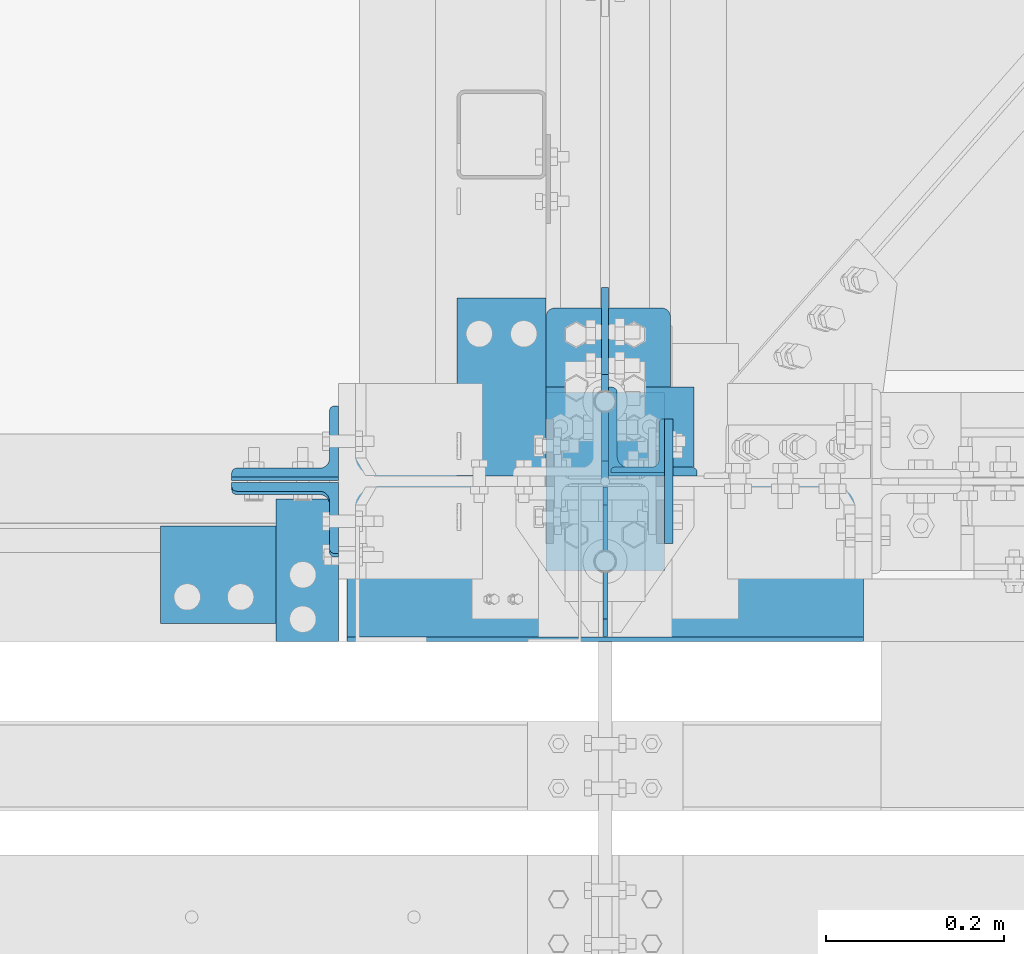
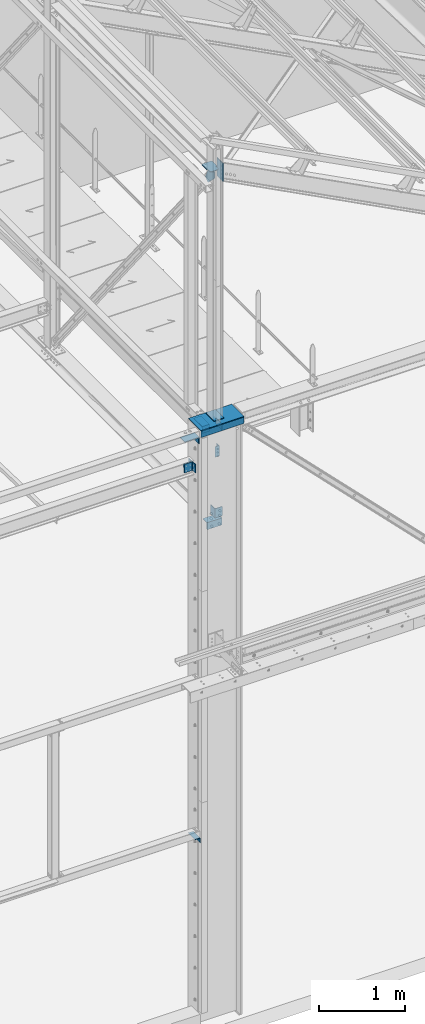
# One storey, part 68 of 362: 13 beams, 2 members, 11 elements without a shape of their own.
"""IFC2X3 building model written with IfcOpenShell, lengths in millimetres."""

import ifcopenshell
import ifcopenshell.guid

model = None  # the IFC model being written
_history = None  # IfcOwnerHistory: only IFC2X3 demands one
_inside = {}  # id of a spatial element -> (the spatial element, [elements in it])
_under = {}  # id of a project, library or spatial element -> (it, [spatial elements below it])
_declared = {}  # id of a project -> (the project, [libraries it declares])
_typed = {}  # id of a type object -> (the type object, [elements of that type])
_made_of = {}  # id of a material, layer set ... -> (it, [elements and type objects made of it])


def new_model(schema):
    """Start an empty IFC model of exactly this schema.

    Asked for "IFC4X3", IfcOpenShell would pick the latest addendum, in which some entities
    have other attributes; the version numbers below select the first issue.
    IFC2X3 requires an IfcOwnerHistory on every rooted entity: one is made here for all.
    """
    global model, _history
    if schema == "IFC4X3":
        model = ifcopenshell.file(schema_version=(4, 3, 0, 0))
    else:
        model = ifcopenshell.file(schema=schema)
    _inside.clear()
    _under.clear()
    _declared.clear()
    _typed.clear()
    _made_of.clear()
    _history = None
    if model.schema == "IFC2X3":
        org = make("IfcOrganization", Name="unknown")
        user = make(
            "IfcPersonAndOrganization",
            ThePerson=make("IfcPerson", FamilyName="unknown"),
            TheOrganization=org,
        )
        app = make(
            "IfcApplication",
            ApplicationDeveloper=org,
            Version="unknown",
            ApplicationFullName="unknown",
            ApplicationIdentifier="unknown",
        )
        _history = make(
            "IfcOwnerHistory",
            OwningUser=user,
            OwningApplication=app,
            ChangeAction="ADDED",
            CreationDate=0,
        )
    return model


def make(cls, **values):
    """One entity of the class cls with the attributes given. An attribute that is None is left unset."""
    return model.create_entity(
        cls, **{name: value for name, value in values.items() if value is not None}
    )


def rooted(cls, **values):
    """An entity with a GlobalId (a new one), such as an element, a storey or a relation."""
    return make(cls, GlobalId=ifcopenshell.guid.new(), OwnerHistory=_history, **values)


def si_unit(unit_type, name, prefix=None):
    """IfcSIUnit, for example si_unit("LENGTHUNIT", "METRE", prefix="MILLI")."""
    return make("IfcSIUnit", UnitType=unit_type, Prefix=prefix, Name=name)


def assignment(units):
    """IfcUnitAssignment: the units of a project."""
    return None if units is None else make("IfcUnitAssignment", Units=units)


def point(xyz):
    """IfcCartesianPoint."""
    return None if xyz is None else make("IfcCartesianPoint", Coordinates=xyz)


def direction(xyz):
    """IfcDirection."""
    return None if xyz is None else make("IfcDirection", DirectionRatios=xyz)


def frame(location, z_axis=None, x_axis=None):
    """IfcAxis2Placement3D, a coordinate frame: its origin and axes. An axis left out is left unset."""
    return make(
        "IfcAxis2Placement3D",
        Location=point(location),
        Axis=direction(z_axis),
        RefDirection=direction(x_axis),
    )


def frame_2d(location, x_axis=None):
    """IfcAxis2Placement2D, a coordinate frame in the plane: its origin and x axis."""
    return make(
        "IfcAxis2Placement2D", Location=point(location), RefDirection=direction(x_axis)
    )


def origin_with_axes():
    """The frame at (0, 0, 0) with the z axis (0, 0, 1) and the x axis (1, 0, 0) written out."""
    return frame((0.0, 0.0, 0.0), z_axis=(0.0, 0.0, 1.0), x_axis=(1.0, 0.0, 0.0))


def origin_2d_with_axis():
    """The frame at (0, 0) in the plane with the x axis (1, 0) written out."""
    return frame_2d((0.0, 0.0), x_axis=(1.0, 0.0))


def place(relative_to, where):
    """IfcLocalPlacement: puts the frame where relative to a parent placement (None: the world)."""
    return make(
        "IfcLocalPlacement", PlacementRelTo=relative_to, RelativePlacement=where
    )


def context(
    kind, dimensions, precision=None, world=None, true_north=None, identifier=None
):
    """IfcGeometricRepresentationContext, for example the 3D "Model" context."""
    return make(
        "IfcGeometricRepresentationContext",
        ContextIdentifier=identifier,
        ContextType=kind,
        CoordinateSpaceDimension=dimensions,
        Precision=precision,
        WorldCoordinateSystem=world,
        TrueNorth=true_north,
    )


def subcontext(parent, identifier, kind, view, scale=None):
    """IfcGeometricRepresentationSubContext, for example "Body" below "Model"."""
    return make(
        "IfcGeometricRepresentationSubContext",
        ContextIdentifier=identifier,
        ContextType=kind,
        ParentContext=parent,
        TargetScale=scale,
        TargetView=view,
    )


def project(units=None, contexts=None):
    """IfcProject with its units and contexts."""
    return rooted(
        "IfcProject",
        Name="project",
        RepresentationContexts=contexts,
        UnitsInContext=assignment(units),
    )


def spatial(cls, under=None, at=None, **own):
    """A site, building, storey or space (cls), placed at a placement, below another one or the project."""
    s = rooted(cls, ObjectPlacement=at, **own)
    if under is not None:
        _under.setdefault(under.id(), (under, []))[1].append(s)
    return s


def polyline(points):
    """IfcPolyline through the points."""
    return make("IfcPolyline", Points=[point(p) for p in points])


def circle_curve(where, radius):
    """IfcCircle in the frame where."""
    return make("IfcCircle", Position=where, Radius=radius)


def parameter(value):
    """IfcParameterValue: where a trimmed curve begins or ends, as a parameter of its basis curve."""
    return model.create_entity("IfcParameterValue", value)


def trimmed(basis, trim1, trim2, sense, master):
    """IfcTrimmedCurve: the piece of a basis curve between two trims."""
    return make(
        "IfcTrimmedCurve",
        BasisCurve=basis,
        Trim1=trim1,
        Trim2=trim2,
        SenseAgreement=sense,
        MasterRepresentation=master,
    )


def segment(curve, same_sense, transition):
    """IfcCompositeCurveSegment."""
    return make(
        "IfcCompositeCurveSegment",
        Transition=transition,
        SameSense=same_sense,
        ParentCurve=curve,
    )


def composite_curve(segments, self_intersect=None):
    """IfcCompositeCurve: segments joined end to end."""
    return make("IfcCompositeCurve", Segments=segments, SelfIntersect=self_intersect)


def profile(cls, at=None, kind="AREA", **sizes):
    """A parametric profile (cls). Its sizes go by their IFC names, for example OverallWidth=200.0."""
    return make(cls, ProfileType=kind, Position=at, **sizes)


def rectangle(**sizes):
    """IfcRectangleProfileDef."""
    return profile("IfcRectangleProfileDef", **sizes)


def l_section(**sizes):
    """IfcLShapeProfileDef."""
    return profile("IfcLShapeProfileDef", **sizes)


def outline(outer, holes=None, kind="AREA"):
    """IfcArbitraryClosedProfileDef: a profile drawn as a closed curve; with holes, ...WithVoids."""
    if holes is None:
        return make("IfcArbitraryClosedProfileDef", ProfileType=kind, OuterCurve=outer)
    return make(
        "IfcArbitraryProfileDefWithVoids",
        ProfileType=kind,
        OuterCurve=outer,
        InnerCurves=holes,
    )


def extrude(swept, where, along, depth):
    """IfcExtrudedAreaSolid: the profile swept, set in the frame where, extruded along a direction by depth."""
    return make(
        "IfcExtrudedAreaSolid",
        SweptArea=swept,
        Position=where,
        ExtrudedDirection=direction(along),
        Depth=depth,
    )


def shape(context_of_items, identifier, shape_type, items):
    """IfcShapeRepresentation: the items that make up one representation, for example the "Body"."""
    return make(
        "IfcShapeRepresentation",
        ContextOfItems=context_of_items,
        RepresentationIdentifier=identifier,
        RepresentationType=shape_type,
        Items=items,
    )


def material(Name=None, Category=None):
    """IfcMaterial."""
    return make("IfcMaterial", Name=Name, Category=Category)


def made_of(thing, what):
    """Note that an element or type object is made of a material, layer set ...; save() writes the relation."""
    if what is not None:
        _made_of.setdefault(what.id(), (what, []))[1].append(thing)
    return thing


def type_object(cls, material=None, **own):
    """A type object (cls), such as IfcWallType, which elements share."""
    return made_of(rooted(cls, **own), material)


def element(
    cls,
    number,
    at=None,
    inside=None,
    cuts=None,
    type_object=None,
    material=None,
    context=None,
    identifier="Body",
    shape_type=None,
    held_by="IfcProductDefinitionShape",
    body=None,
    shapes=None,
    **own,
):
    """One element of the class cls, such as IfcWall. Its Tag is "e" and its number.

    at: its placement. inside: the storey or other place that contains it. cuts: it is an
    opening in that element (IfcRelVoidsElement). A single representation is given by context,
    identifier, shape_type and body (its items); several are given by shapes. held_by: the class
    of the entity that holds the representations. save() writes the other relations.
    """
    e = rooted(cls, Tag="e%d" % number, ObjectPlacement=at, **own)
    if body is not None:
        shapes = [shape(context, identifier, shape_type, body)]
    if shapes is not None:
        e.Representation = make(held_by, Representations=shapes)
    if inside is not None:
        _inside.setdefault(inside.id(), (inside, []))[1].append(e)
    if cuts is not None:
        rooted(
            "IfcRelVoidsElement", RelatingBuildingElement=cuts, RelatedOpeningElement=e
        )
    if type_object is not None:
        _typed.setdefault(type_object.id(), (type_object, []))[1].append(e)
    return made_of(e, material)


def aggregate(whole, parts):
    """IfcRelAggregates: a whole, such as a stair, and the parts it consists of."""
    return rooted("IfcRelAggregates", RelatingObject=whole, RelatedObjects=parts)


def save(model, path):
    """Write the relations noted so far, then the file.

    IfcRelAggregates (storeys below a building ...), IfcRelContainedInSpatialStructure (elements
    in a storey), IfcRelDefinesByType, IfcRelAssociatesMaterial and IfcRelDeclares: one each for
    every whole, place, type object, material and project.
    """
    for whole, parts in _under.values():
        aggregate(whole, parts)
    for where, things in _inside.values():
        rooted(
            "IfcRelContainedInSpatialStructure",
            RelatedElements=things,
            RelatingStructure=where,
        )
    for kind, things in _typed.values():
        rooted("IfcRelDefinesByType", RelatedObjects=things, RelatingType=kind)
    for what, things in _made_of.values():
        rooted("IfcRelAssociatesMaterial", RelatedObjects=things, RelatingMaterial=what)
    for by, libraries in _declared.values():
        rooted("IfcRelDeclares", RelatingContext=by, RelatedDefinitions=libraries)
    model.write(path)


model = new_model("IFC2X3")

# Units and contexts
model_context = context("Model", 3, precision=1e-05, world=origin_with_axes())
body_context = subcontext(model_context, "Body", "Model", "MODEL_VIEW")
ifc_project = project(units=[si_unit("LENGTHUNIT", "METRE", prefix="MILLI"), si_unit("AREAUNIT", "SQUARE_METRE"), si_unit("VOLUMEUNIT", "CUBIC_METRE"), si_unit("MASSUNIT", "GRAM", prefix="KILO"), si_unit("TIMEUNIT", "SECOND"), si_unit("PLANEANGLEUNIT", "RADIAN"), si_unit("SOLIDANGLEUNIT", "STERADIAN"), si_unit("THERMODYNAMICTEMPERATUREUNIT", "DEGREE_CELSIUS"), si_unit("LUMINOUSINTENSITYUNIT", "LUMEN")], contexts=[model_context])

# Site, building, storey
site_placement = place(None, origin_with_axes())
site = spatial("IfcSite", under=ifc_project, at=site_placement, Name="Undefined", CompositionType="ELEMENT")
building_placement = place(site_placement, origin_with_axes())
building = spatial("IfcBuilding", under=site, at=building_placement, Name="Undefined", CompositionType="ELEMENT")
storey_placement = place(building_placement, origin_with_axes())
storey = spatial("IfcBuildingStorey", under=building, at=storey_placement, Name="Undefined", CompositionType="ELEMENT", Elevation=0.0)

# Assembly, beam
assembly_1_placement = place(storey_placement, origin_with_axes())
assembly_1 = element("IfcElementAssembly", 1, at=assembly_1_placement, inside=storey, AssemblyPlace="NOTDEFINED", PredefinedType="NOTDEFINED")
ifc_material = material(Name="Undefined/S235-E24")
beam_type_1 = type_object("IfcBeamType", Name="L60*6", PredefinedType="NOTDEFINED")
beam_1_placement = place(assembly_1_placement, frame((12716.5083410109, 40.0000004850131, 8100.0), z_axis=(-1.0, 0.0, 0.0), x_axis=(0.0, 0.0, -1.0)))
beam_1 = element("IfcBeam", 2, at=beam_1_placement, type_object=beam_type_1, material=ifc_material, Name="ATTACHE", ObjectType="L60*6", context=body_context, shape_type="SweptSolid", body=[
    extrude(l_section(Depth=60.0, Width=60.0, Thickness=6.0, FilletRadius=8.0, EdgeRadius=4.0, at=origin_2d_with_axis()), frame((150.0, 0.0, 0.0), z_axis=(-1.0, 0.0, 0.0), x_axis=(0.0, -1.0, 0.0)), (0.0, 0.0, 1.0), 150.0),
])
aggregate(assembly_1, [beam_1])

assembly_2_placement = place(storey_placement, origin_with_axes())
assembly_2 = element("IfcElementAssembly", 3, at=assembly_2_placement, inside=storey, AssemblyPlace="NOTDEFINED", PredefinedType="NOTDEFINED")
beam_type_2 = type_object("IfcBeamType", Name="L70*7", PredefinedType="NOTDEFINED")
beam_2_placement = place(assembly_2_placement, frame((12344.9960926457, -180.000008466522, 2725.0), z_axis=(0.0, 0.0, -1.0), x_axis=(0.0, 1.0, 0.0)))
beam_2 = element("IfcBeam", 4, at=beam_2_placement, type_object=beam_type_2, material=ifc_material, Name="ATTACHE", ObjectType="L70*7", context=body_context, shape_type="SweptSolid", body=[
    extrude(l_section(Depth=70.0, Width=70.0, Thickness=7.0, FilletRadius=9.0, EdgeRadius=4.5, at=origin_2d_with_axis()), frame((160.000008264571, 0.0, 0.0), z_axis=(-1.0, 0.0, 0.0), x_axis=(0.0, -1.0, 0.0)), (0.0, 0.0, 1.0), 160.0),
])
aggregate(assembly_2, [beam_2])

assembly_3_placement = place(storey_placement, origin_with_axes())
assembly_3 = element("IfcElementAssembly", 5, at=assembly_3_placement, inside=storey, Name="MONTANT", AssemblyPlace="NOTDEFINED", PredefinedType="NOTDEFINED")
beam_type_3 = type_object("IfcBeamType", Name="PL10*133", PredefinedType="NOTDEFINED")
beam_3_placement = place(assembly_3_placement, frame((12680.0, 100.0, 8555.0), z_axis=(1.0, 0.0, 0.0), x_axis=(0.0, -1.0, 0.0)))
beam_3 = element("IfcBeam", 6, at=beam_3_placement, type_object=beam_type_3, material=ifc_material, Name="PLATINE", ObjectType="PL10*133", context=body_context, shape_type="SweptSolid", body=[
    extrude(rectangle(XDim=10.0, YDim=133.0, at=origin_2d_with_axis()), frame((200.0, 0.0, 0.0), z_axis=(-1.0, 0.0, 0.0), x_axis=(0.0, -1.0, 0.0)), (0.0, 0.0, 1.0), 200.0),
])

assembly_4_placement = place(storey_placement, origin_with_axes())
assembly_4 = element("IfcElementAssembly", 7, at=assembly_4_placement, inside=storey, AssemblyPlace="NOTDEFINED", PredefinedType="NOTDEFINED")
beam_type_4 = type_object("IfcBeamType", Name="L200*100*10", PredefinedType="NOTDEFINED")
beam_4_placement = place(assembly_4_placement, frame((12280.0111056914, -49.9898600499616, 8399.99872306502), z_axis=(-0.999999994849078, 0.000101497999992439, 0.0), x_axis=(-0.000101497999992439, -0.999999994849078, 0.0)))
beam_4 = element("IfcBeam", 8, at=beam_4_placement, type_object=beam_type_4, material=ifc_material, Name="ATTACHE", ObjectType="L200*100*10", context=body_context, shape_type="SweptSolid", body=[
    extrude(l_section(Depth=200.0, Width=100.0, Thickness=10.0, FilletRadius=15.0, EdgeRadius=7.5, at=origin_2d_with_axis()), frame((109.999999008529, 1.81898940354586e-12, 0.0), z_axis=(-1.0, 0.0, 0.0), x_axis=(0.0, -1.0, 0.0)), (0.0, 0.0, 1.0), 110.0),
])
aggregate(assembly_4, [beam_4])

assembly_5_placement = place(storey_placement, origin_with_axes())
assembly_5 = element("IfcElementAssembly", 9, at=assembly_5_placement, inside=storey, AssemblyPlace="NOTDEFINED", PredefinedType="NOTDEFINED")
beam_5_placement = place(assembly_5_placement, frame((12613.5000000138, 106.0, 8400.0), z_axis=(0.0, 1.0, 0.0), x_axis=(-1.0, 0.0, 0.0)))
beam_5 = element("IfcBeam", 10, at=beam_5_placement, type_object=beam_type_4, material=ifc_material, Name="ATTACHE", ObjectType="L200*100*10", context=body_context, shape_type="SweptSolid", body=[
    extrude(l_section(Depth=200.0, Width=100.0, Thickness=10.0, FilletRadius=15.0, EdgeRadius=7.5, at=origin_2d_with_axis()), frame((99.9999999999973, -1.63709046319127e-11, 7.73070496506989e-12), z_axis=(-1.0, 0.0, 0.0), x_axis=(0.0, -1.0, 0.0)), (0.0, 0.0, 1.0), 100.0),
])
aggregate(assembly_5, [beam_5])

assembly_6_placement = place(storey_placement, origin_with_axes())
assembly_6 = element("IfcElementAssembly", 11, at=assembly_6_placement, inside=storey, Name="TRAVERSE SHED", AssemblyPlace="NOTDEFINED", PredefinedType="NOTDEFINED")
beam_type_5 = type_object("IfcBeamType", Name="PL10*140", PredefinedType="NOTDEFINED")
beam_6_placement = place(assembly_6_placement, frame((12751.5, 0.0, 12161.0697488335), z_axis=(0.0, -1.0, 0.0), x_axis=(0.0, 0.0, -1.0)))
beam_6 = element("IfcBeam", 12, at=beam_6_placement, type_object=beam_type_5, material=ifc_material, Name="PLATINE", ObjectType="PL10*140", context=body_context, shape_type="SweptSolid", body=[
    extrude(rectangle(XDim=10.0, YDim=140.0, at=origin_2d_with_axis()), frame((259.795359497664, 0.0, 0.0), z_axis=(-1.0, 0.0, 0.0), x_axis=(0.0, -1.0, 0.0)), (0.0, 0.0, 1.0), 259.8),
])
aggregate(assembly_6, [beam_6])

# Assembly, member
assembly_7_placement = place(storey_placement, origin_with_axes())
assembly_7 = element("IfcElementAssembly", 13, at=assembly_7_placement, inside=storey, AssemblyPlace="NOTDEFINED", PredefinedType="NOTDEFINED")
member_type = type_object("IfcMemberType", Name="L120*80*10", PredefinedType="NOTDEFINED")
member_1_placement = place(assembly_7_placement, frame((12319.9978557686, 44.8620356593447, 8008.57381268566), z_axis=(-1.0, 0.0, 0.0), x_axis=(-1.05403257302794e-09, -0.0314112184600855, -0.999506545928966)))
member_1 = element("IfcMember", 14, at=member_1_placement, type_object=member_type, material=ifc_material, Name="ATTACHE", ObjectType="L120*80*10", context=body_context, shape_type="SweptSolid", body=[
    extrude(l_section(Depth=120.0, Width=80.0, Thickness=10.0, FilletRadius=11.0, EdgeRadius=5.5, at=origin_2d_with_axis()), frame((120.0, 0.0, 0.0), z_axis=(-1.0, 0.0, 0.0), x_axis=(0.0, -1.0, 0.0)), (0.0, 0.0, 1.0), 120.0),
])
aggregate(assembly_7, [member_1])

assembly_8_placement = place(storey_placement, origin_with_axes())
assembly_8 = element("IfcElementAssembly", 15, at=assembly_8_placement, inside=storey, AssemblyPlace="NOTDEFINED", PredefinedType="NOTDEFINED")
member_2_placement = place(assembly_8_placement, frame((12319.9978557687, -44.8657353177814, 7891.33441900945), z_axis=(-1.0, 0.0, 0.0), x_axis=(7.58071938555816e-11, 0.0314107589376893, 0.999506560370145)))
member_2 = element("IfcMember", 16, at=member_2_placement, type_object=member_type, material=ifc_material, Name="ATTACHE", ObjectType="L120*80*10", context=body_context, shape_type="SweptSolid", body=[
    extrude(l_section(Depth=120.0, Width=80.0, Thickness=10.0, FilletRadius=11.0, EdgeRadius=5.5, at=origin_2d_with_axis()), frame((120.0, 0.0, 0.0), z_axis=(-1.0, 0.0, 0.0), x_axis=(0.0, -1.0, 0.0)), (0.0, 0.0, 1.0), 120.0),
])
aggregate(assembly_8, [member_2])

# Assembly, beam
assembly_9_placement = place(storey_placement, origin_with_axes())
assembly_9 = element("IfcElementAssembly", 17, at=assembly_9_placement, inside=storey, AssemblyPlace="NOTDEFINED", PredefinedType="NOTDEFINED")
beam_type_6 = type_object("IfcBeamType", Name="L100*10", PredefinedType="NOTDEFINED")
beam_7_placement = place(assembly_9_placement, frame((12733.4999999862, 56.0023019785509, 7219.99987296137), z_axis=(0.0, 1.0, 0.0), x_axis=(0.0, 0.0, -1.0)))
beam_7 = element("IfcBeam", 18, at=beam_7_placement, type_object=beam_type_6, material=ifc_material, Name="ATTACHE", ObjectType="L100*10", context=body_context, shape_type="SweptSolid", body=[
    extrude(l_section(Depth=100.0, Width=100.0, Thickness=10.0, FilletRadius=12.0, EdgeRadius=6.0, at=origin_2d_with_axis()), frame((130.0, 0.0, 0.0), z_axis=(-1.0, 0.0, 0.0), x_axis=(0.0, -1.0, 0.0)), (0.0, 0.0, 1.0), 130.0),
])
aggregate(assembly_9, [beam_7])

assembly_10_placement = place(storey_placement, origin_with_axes())
assembly_10 = element("IfcElementAssembly", 19, at=assembly_10_placement, inside=storey, AssemblyPlace="NOTDEFINED", PredefinedType="NOTDEFINED")
beam_8_placement = place(assembly_10_placement, frame((12579.9992314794, 56.0030579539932, 7009.99901901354), z_axis=(0.0, 0.0, -1.0), x_axis=(0.999999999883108, 1.52899999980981e-05, 0.0)))
beam_8 = element("IfcBeam", 20, at=beam_8_placement, type_object=beam_type_6, material=ifc_material, Name="ATTACHE", ObjectType="L100*10", context=body_context, shape_type="SweptSolid", body=[
    extrude(l_section(Depth=100.0, Width=100.0, Thickness=10.0, FilletRadius=12.0, EdgeRadius=6.0, at=origin_2d_with_axis()), frame((200.0, 0.0, 0.0), z_axis=(-1.0, 0.0, 0.0), x_axis=(0.0, -1.0, 0.0)), (0.0, 0.0, 1.0), 200.0),
])
aggregate(assembly_10, [beam_8])

# Beam
beam_type_7 = type_object("IfcBeamType", Name="TOLE10*192", PredefinedType="NOTDEFINED")
beam_9_placement = place(assembly_3_placement, frame((12613.5, 194.999999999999, 12032.0), z_axis=(0.0, 0.0, 1.0), x_axis=(0.0, -1.0, 0.0)))
beam_9 = element("IfcBeam", 21, at=beam_9_placement, type_object=beam_type_7, material=ifc_material, Name="PLAT", ObjectType="TOLE10*192", context=body_context, shape_type="SweptSolid", body=[
    extrude(outline(composite_curve([segment(trimmed(circle_curve(frame_2d((10.0, 10.0), x_axis=(-1.0, 0.0)), 10.0), [parameter(0.0)], [parameter(1.5707963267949)], True, "PARAMETER"), True, "CONTINUOUS"), segment(polyline([(9.99999999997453, 6.91215973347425e-11), (124.5, 0.0), (124.5, 9.0), (172.25, 9.0), (192.25, 29.0), (192.25, 104.0), (172.25, 124.0), (124.0, 124.0), (124.0, 140.0), (10.0, 140.0)]), True, "CONTINUOUS"), segment(trimmed(circle_curve(frame_2d((10.0, 130.0), x_axis=(0.0, 1.0)), 10.0), [parameter(0.0)], [parameter(1.5707963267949)], True, "PARAMETER"), True, "CONTINUOUS"), segment(polyline([(0.0, 130.0), (-1.81898940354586e-10, 10.0000000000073)]), True, "CONTINUOUS")], self_intersect=True)), frame((0.0, 0.0, -5.0), z_axis=(0.0, 0.0, 1.0), x_axis=(1.0, 0.0, 0.0)), (0.0, 0.0, 1.0), 10.0),
])

beam_type_8 = type_object("IfcBeamType", Name="TOLE8*250", PredefinedType="NOTDEFINED")
beam_10_placement = place(assembly_3_placement, frame((12680.0, 2.74999999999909, 12027.0), z_axis=(-1.0, 0.0, 0.0), x_axis=(0.0, 1.0, 0.0)))
beam_10 = element("IfcBeam", 22, at=beam_10_placement, type_object=beam_type_8, material=ifc_material, Name="GOUSSET", ObjectType="TOLE8*250", context=body_context, shape_type="SweptSolid", body=[
    extrude(outline(polyline([(1.47401806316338e-08, 20.0000000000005), (19.9999999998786, -3.63797880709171e-12), (117.25, 0.0), (215.105651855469, 200.098342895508), (152.447570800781, 249.837310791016), (0.0, 100.0), (1.47401806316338e-08, 20.0000000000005)])), frame((0.0, 0.0, -4.0), z_axis=(0.0, 0.0, 1.0), x_axis=(1.0, 0.0, 0.0)), (0.0, 0.0, 1.0), 8.0),
])

aggregate(assembly_3, [beam_3, beam_10, beam_9])

# Assembly, beams
assembly_11_placement = place(storey_placement, origin_with_axes())
assembly_11 = element("IfcElementAssembly", 23, at=assembly_11_placement, inside=storey, Name="POTEAU", AssemblyPlace="NOTDEFINED", PredefinedType="NOTDEFINED")
beam_type_9 = type_object("IfcBeamType", Name="PL5*90", PredefinedType="NOTDEFINED")
beam_11_placement = place(assembly_11_placement, frame((12680.0, -6.5, 8450.0), z_axis=(-1.0, 0.0, 0.0), x_axis=(0.0, -1.0, 0.0)))
beam_11 = element("IfcBeam", 24, at=beam_11_placement, type_object=beam_type_9, material=ifc_material, Name="RAIDISSEUR", ObjectType="PL5*90", context=body_context, shape_type="SweptSolid", body=[
    extrude(outline(polyline([(0.0, 0.0), (168.0, 0.0), (168.0, 70.0), (148.0, 90.0), (20.000000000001, 90.0), (-7.90371359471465e-08, 70.000007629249), (0.0, 0.0)])), frame((0.0, 0.0, -2.5), z_axis=(0.0, 0.0, 1.0), x_axis=(1.0, 0.0, 0.0)), (0.0, 0.0, 1.0), 5.0),
])
beam_type_10 = type_object("IfcBeamType", Name="PL5*581", PredefinedType="NOTDEFINED")
beam_12_placement = place(assembly_11_placement, frame((12680.0000000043, -177.5, 8540.00000000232), z_axis=(1.0, 0.0, 0.0), x_axis=(0.0, 0.0, -1.0)))
beam_12 = element("IfcBeam", 25, at=beam_12_placement, type_object=beam_type_10, material=ifc_material, Name="PLATINE", ObjectType="PL5*581", context=body_context, shape_type="SweptSolid", body=[
    extrude(rectangle(XDim=5.0, YDim=581.0, at=origin_2d_with_axis()), frame((90.0, 0.0, 0.0), z_axis=(-1.0, 0.0, 0.0), x_axis=(0.0, -1.0, 0.0)), (0.0, 0.0, 1.0), 90.0),
])
beam_type_11 = type_object("IfcBeamType", Name="PL10*290", PredefinedType="NOTDEFINED")
beam_13_placement = place(assembly_11_placement, frame((12389.5, -35.0, 8545.0), z_axis=(0.0, 1.0, 0.0), x_axis=(1.0, 0.0, 0.0)))
beam_13 = element("IfcBeam", 26, at=beam_13_placement, type_object=beam_type_11, material=ifc_material, Name="PLATINE", ObjectType="PL10*290", context=body_context, shape_type="SweptSolid", body=[
    extrude(rectangle(XDim=10.0, YDim=290.0, at=origin_2d_with_axis()), frame((581.0, 0.0, 0.0), z_axis=(-1.0, 0.0, 0.0), x_axis=(0.0, -1.0, 0.0)), (0.0, 0.0, 1.0), 581.0),
])
aggregate(assembly_11, [beam_11, beam_12, beam_13])

save(model, "model.ifc")
